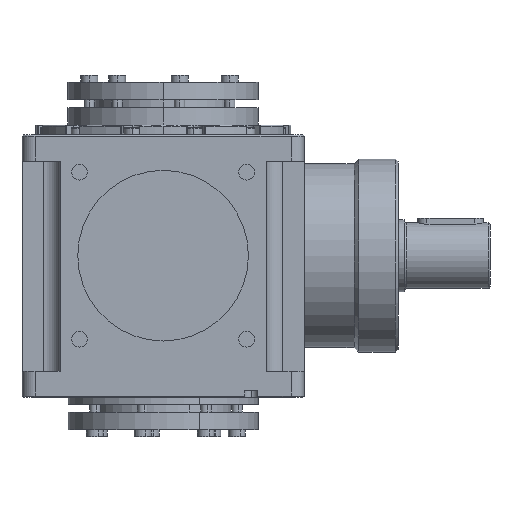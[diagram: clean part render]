
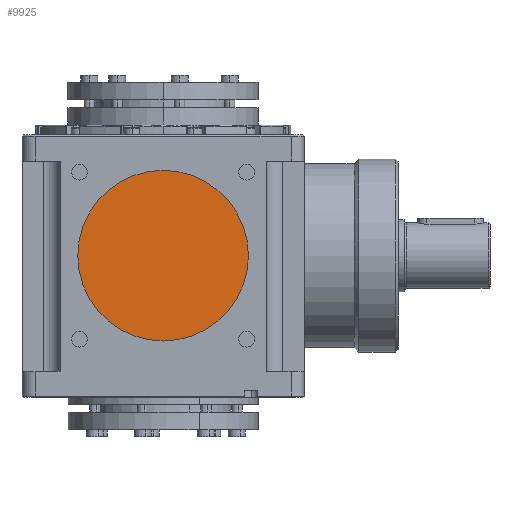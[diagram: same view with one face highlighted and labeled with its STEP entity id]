
A CAD part, left-side view. The second image highlights one B-rep face of the part: STEP entity #9925.
In plain terms, the highlighted planar face has unit normal (-1, 0, 0).
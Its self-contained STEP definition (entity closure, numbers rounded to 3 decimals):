
#100 = VERTEX_POINT ( 'NONE', #22970 ) ;
#1591 = DIRECTION ( 'NONE',  ( -1., 0., 0. ) ) ;
#1692 = VERTEX_POINT ( 'NONE', #15388 ) ;
#2530 = DIRECTION ( 'NONE',  ( -1., 0., 0. ) ) ;
#4342 = AXIS2_PLACEMENT_3D ( 'NONE', #24191, #1591, #24041 ) ;
#5370 = ORIENTED_EDGE ( 'NONE', *, *, #24795, .T. ) ;
#6874 = CIRCLE ( 'NONE', #4342, 65. ) ;
#7527 = EDGE_CURVE ( 'NONE', #100, #1692, #6874, .T. ) ;
#8660 = DIRECTION ( 'NONE',  ( 0., -1., 0. ) ) ;
#9925 = ADVANCED_FACE ( 'NONE', ( #14390 ), #12636, .T. ) ;
#11350 = CARTESIAN_POINT ( 'NONE',  ( -102.5, 0., 0. ) ) ;
#12636 = PLANE ( 'NONE',  #20016 ) ;
#14390 = FACE_OUTER_BOUND ( 'NONE', #25397, .T. ) ;
#15388 = CARTESIAN_POINT ( 'NONE',  ( -102.5, -65., 0. ) ) ;
#15730 = AXIS2_PLACEMENT_3D ( 'NONE', #11350, #19453, #21584 ) ;
#18122 = ORIENTED_EDGE ( 'NONE', *, *, #7527, .T. ) ;
#19453 = DIRECTION ( 'NONE',  ( -1., 0., 0. ) ) ;
#20016 = AXIS2_PLACEMENT_3D ( 'NONE', #22719, #2530, #8660 ) ;
#21584 = DIRECTION ( 'NONE',  ( 0., -1., 0. ) ) ;
#22719 = CARTESIAN_POINT ( 'NONE',  ( -102.5, 0., 0. ) ) ;
#22970 = CARTESIAN_POINT ( 'NONE',  ( -102.5, 65., 0. ) ) ;
#24041 = DIRECTION ( 'NONE',  ( 0., -1., 0. ) ) ;
#24191 = CARTESIAN_POINT ( 'NONE',  ( -102.5, 0., 0. ) ) ;
#24795 = EDGE_CURVE ( 'NONE', #1692, #100, #25466, .T. ) ;
#25397 = EDGE_LOOP ( 'NONE', ( #5370, #18122 ) ) ;
#25466 = CIRCLE ( 'NONE', #15730, 65. ) ;
